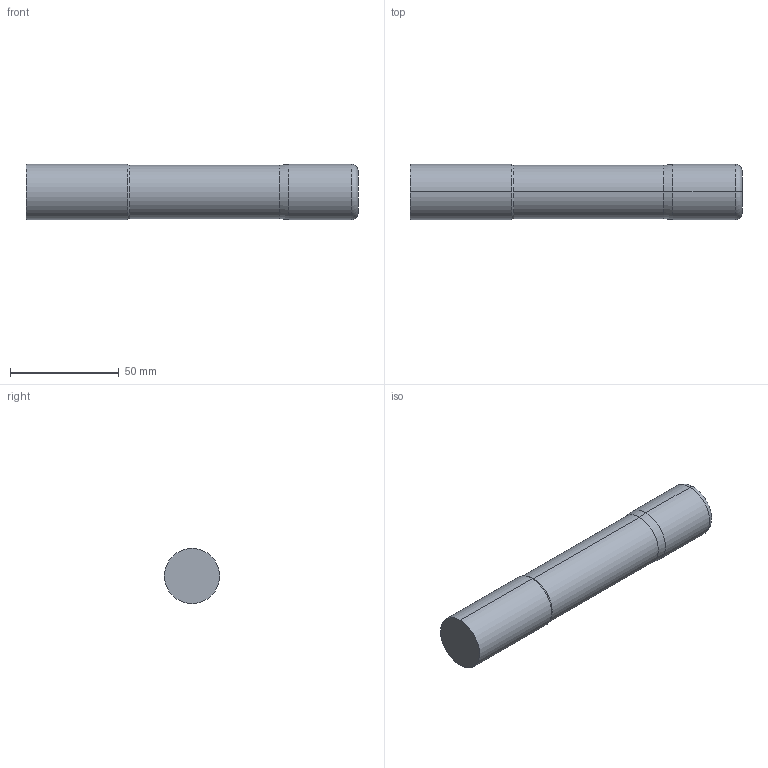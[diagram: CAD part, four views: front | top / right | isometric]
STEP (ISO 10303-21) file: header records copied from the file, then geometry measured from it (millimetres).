
FILE_DESCRIPTION (( 'STEP AP214' ), '1' );
FILE_NAME ('SSIRNX51000-120.STEP', '2025-05-28T20:00:08', ( '' ), ( '' ), 'SwSTEP 2.0', 'SolidWorks 2023', '' );
FILE_SCHEMA (( 'AUTOMOTIVE_DESIGN' ));
Length unit declared in the file: inch
Products named in the file (3): SSIRNX51000-120; SSI5 Imperial SHANK ONLY_SSIRNX51000-120; SSI5 Imperial LOC ONLY_SSIRNX51000-120
Assembly tree (2 placements, depth 2):
  SSIRNX51000-120
    SSI5 Imperial LOC ONLY_SSIRNX51000-120
    SSI5 Imperial SHANK ONLY_SSIRNX51000-120
Bounding box: 152.4 x 25.4 x 25.4 mm (x, y, z)
Volume: 74234.7 mm3; surface area: 13864.5 mm2
Topology: 2 solids, 2 shells, 16 faces, 28 edges, 16 vertices
Faces by surface type: cylinder 6, plane 4, cone 4, torus 2
Entity records: 562 total; most frequent: DIRECTION 88, CARTESIAN_POINT 65, ORIENTED_EDGE 56, AXIS2_PLACEMENT_3D 39, EDGE_CURVE 28, CIRCLE 18, FACE_OUTER_BOUND 16, EDGE_LOOP 16
